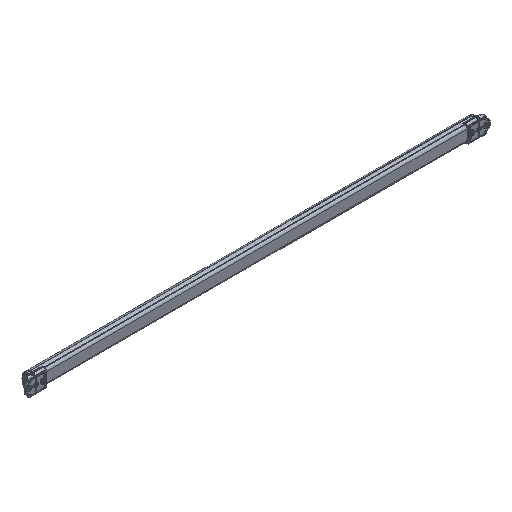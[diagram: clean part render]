
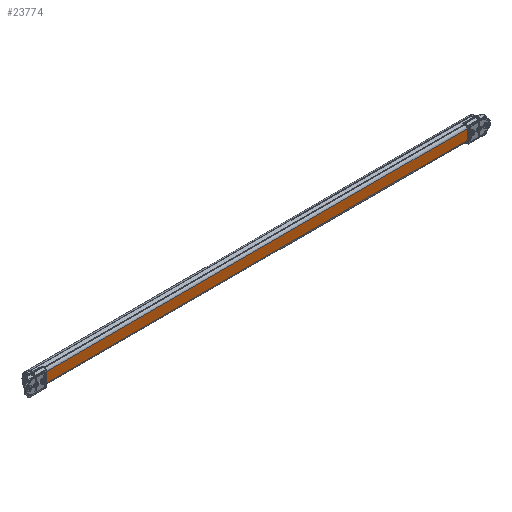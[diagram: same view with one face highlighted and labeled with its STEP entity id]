
A CAD part, isometric view. The second image highlights one B-rep face of the part: STEP entity #23774.
In plain terms, the highlighted planar face has unit normal (0, -1, 0).
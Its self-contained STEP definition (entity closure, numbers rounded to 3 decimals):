
#2205 = DIRECTION ( 'NONE',  ( -1., 0., 0. ) ) ;
#7599 = EDGE_CURVE ( 'NONE', #16420, #17786, #20129, .T. ) ;
#8749 = PLANE ( 'NONE',  #24555 ) ;
#9890 = DIRECTION ( 'NONE',  ( -1., 0., 0. ) ) ;
#11366 = ORIENTED_EDGE ( 'NONE', *, *, #25039, .T. ) ;
#11769 = CARTESIAN_POINT ( 'NONE',  ( -517.355, -13.877, 923.394 ) ) ;
#12606 = LINE ( 'NONE', #40934, #25756 ) ;
#13828 = VERTEX_POINT ( 'NONE', #30237 ) ;
#16420 = VERTEX_POINT ( 'NONE', #42204 ) ;
#17261 = CARTESIAN_POINT ( 'NONE',  ( -517.355, -13.877, 902.606 ) ) ;
#17786 = VERTEX_POINT ( 'NONE', #17261 ) ;
#19590 = LINE ( 'NONE', #29534, #30545 ) ;
#20129 = LINE ( 'NONE', #31208, #44267 ) ;
#20687 = ORIENTED_EDGE ( 'NONE', *, *, #7599, .F. ) ;
#22614 = DIRECTION ( 'NONE',  ( 0., 0., 1. ) ) ;
#23774 = ADVANCED_FACE ( 'NONE', ( #44106 ), #8749, .F. ) ;
#23830 = ORIENTED_EDGE ( 'NONE', *, *, #37397, .F. ) ;
#23939 = CARTESIAN_POINT ( 'NONE',  ( -517.355, -13.877, 923.394 ) ) ;
#24555 = AXIS2_PLACEMENT_3D ( 'NONE', #29838, #27116, #22614 ) ;
#25039 = EDGE_CURVE ( 'NONE', #13828, #32513, #12606, .T. ) ;
#25756 = VECTOR ( 'NONE', #2205, 1000. ) ;
#27116 = DIRECTION ( 'NONE',  ( 0., 1., 0. ) ) ;
#27672 = ORIENTED_EDGE ( 'NONE', *, *, #44793, .T. ) ;
#29534 = CARTESIAN_POINT ( 'NONE',  ( 395.645, -13.877, 923.394 ) ) ;
#29838 = CARTESIAN_POINT ( 'NONE',  ( -304.355, -13.877, 923.394 ) ) ;
#30237 = CARTESIAN_POINT ( 'NONE',  ( 395.645, -13.877, 923.394 ) ) ;
#30545 = VECTOR ( 'NONE', #39947, 1000. ) ;
#31208 = CARTESIAN_POINT ( 'NONE',  ( -304.355, -13.877, 902.606 ) ) ;
#32513 = VERTEX_POINT ( 'NONE', #23939 ) ;
#37397 = EDGE_CURVE ( 'NONE', #13828, #16420, #19590, .T. ) ;
#38349 = EDGE_LOOP ( 'NONE', ( #27672, #20687, #23830, #11366 ) ) ;
#39204 = DIRECTION ( 'NONE',  ( 0., 0., -1. ) ) ;
#39947 = DIRECTION ( 'NONE',  ( 0., 0., -1. ) ) ;
#40096 = LINE ( 'NONE', #11769, #41182 ) ;
#40934 = CARTESIAN_POINT ( 'NONE',  ( -304.355, -13.877, 923.394 ) ) ;
#41182 = VECTOR ( 'NONE', #39204, 1000. ) ;
#42204 = CARTESIAN_POINT ( 'NONE',  ( 395.645, -13.877, 902.606 ) ) ;
#44106 = FACE_OUTER_BOUND ( 'NONE', #38349, .T. ) ;
#44267 = VECTOR ( 'NONE', #9890, 1000. ) ;
#44793 = EDGE_CURVE ( 'NONE', #32513, #17786, #40096, .T. ) ;
